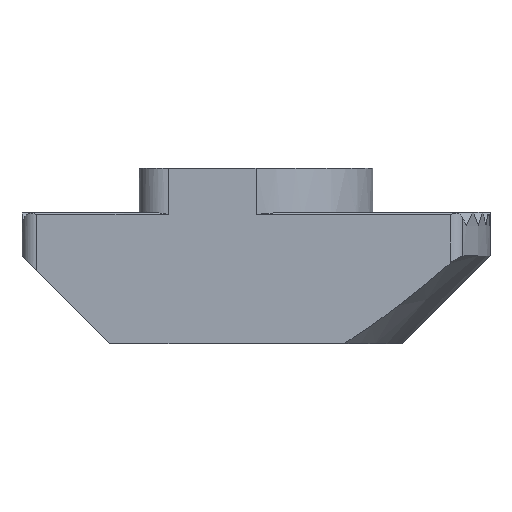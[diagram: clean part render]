
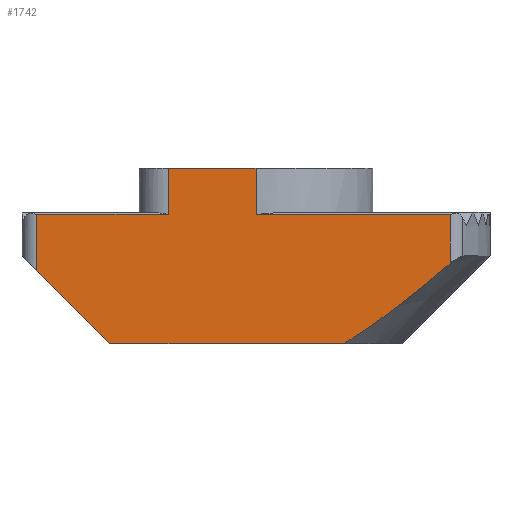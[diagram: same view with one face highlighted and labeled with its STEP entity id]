
A CAD part, front view. The second image highlights one B-rep face of the part: STEP entity #1742.
In plain terms, the highlighted planar face has unit normal (0, -1, 0).
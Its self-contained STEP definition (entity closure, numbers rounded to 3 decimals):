
#284 = LINE ( 'NONE', #2520, #293 ) ;
#288 = LINE ( 'NONE', #2511, #291 ) ;
#290 = LINE ( 'NONE', #2515, #295 ) ;
#291 = VECTOR ( 'NONE', #2509, 1000. ) ;
#292 = LINE ( 'NONE', #2495, #300 ) ;
#293 = VECTOR ( 'NONE', #2508, 1000. ) ;
#294 = LINE ( 'NONE', #2505, #297 ) ;
#295 = VECTOR ( 'NONE', #2506, 1000. ) ;
#296 = LINE ( 'NONE', #2503, #299 ) ;
#297 = VECTOR ( 'NONE', #2504, 1000. ) ;
#298 = LINE ( 'NONE', #2501, #301 ) ;
#299 = VECTOR ( 'NONE', #2502, 1000. ) ;
#300 = VECTOR ( 'NONE', #2494, 1000. ) ;
#301 = VECTOR ( 'NONE', #2500, 1000. ) ;
#303 = LINE ( 'NONE', #2493, #305 ) ;
#304 = LINE ( 'NONE', #2491, #307 ) ;
#305 = VECTOR ( 'NONE', #2492, 1000. ) ;
#307 = VECTOR ( 'NONE', #2489, 1000. ) ;
#418 = EDGE_CURVE ( 'NONE', #676, #1510, #288, .T. ) ;
#419 = EDGE_CURVE ( 'NONE', #676, #1512, #284, .T. ) ;
#420 = EDGE_CURVE ( 'NONE', #1512, #1513, #290, .T. ) ;
#421 = EDGE_CURVE ( 'NONE', #1513, #1514, #294, .T. ) ;
#422 = EDGE_CURVE ( 'NONE', #1514, #1515, #296, .T. ) ;
#423 = EDGE_CURVE ( 'NONE', #1515, #1516, #298, .T. ) ;
#424 = EDGE_CURVE ( 'NONE', #1516, #1517, #514, .T. ) ;
#425 = EDGE_CURVE ( 'NONE', #1517, #1518, #292, .T. ) ;
#426 = EDGE_CURVE ( 'NONE', #1518, #1519, #303, .T. ) ;
#427 = EDGE_CURVE ( 'NONE', #1510, #1519, #304, .T. ) ;
#514 = B_SPLINE_CURVE_WITH_KNOTS ( 'NONE', 3,
 ( #2499, #2507, #2510, #2498, #2497, #2496 ),
 .UNSPECIFIED., .F., .F.,
 ( 4, 2, 4 ),
 ( 0., 0.002, 0.005 ),
 .UNSPECIFIED. ) ;
#676 = VERTEX_POINT ( 'NONE', #2192 ) ;
#770 = FACE_OUTER_BOUND ( 'NONE', #2624, .T. ) ;
#979 = ORIENTED_EDGE ( 'NONE', *, *, #424, .T. ) ;
#987 = ORIENTED_EDGE ( 'NONE', *, *, #425, .T. ) ;
#995 = ORIENTED_EDGE ( 'NONE', *, *, #426, .T. ) ;
#1003 = ORIENTED_EDGE ( 'NONE', *, *, #427, .F. ) ;
#1067 = ORIENTED_EDGE ( 'NONE', *, *, #418, .F. ) ;
#1075 = ORIENTED_EDGE ( 'NONE', *, *, #419, .T. ) ;
#1083 = ORIENTED_EDGE ( 'NONE', *, *, #420, .T. ) ;
#1091 = ORIENTED_EDGE ( 'NONE', *, *, #421, .T. ) ;
#1099 = ORIENTED_EDGE ( 'NONE', *, *, #422, .T. ) ;
#1107 = ORIENTED_EDGE ( 'NONE', *, *, #423, .T. ) ;
#1298 = CARTESIAN_POINT ( 'NONE',  ( -8., -4., 4.5 ) ) ;
#1301 = PLANE ( 'NONE',  #1818 ) ;
#1303 = DIRECTION ( 'NONE',  ( 0., 1., 0. ) ) ;
#1304 = DIRECTION ( 'NONE',  ( 0., 0., 1. ) ) ;
#1510 = VERTEX_POINT ( 'NONE', #2209 ) ;
#1512 = VERTEX_POINT ( 'NONE', #2217 ) ;
#1513 = VERTEX_POINT ( 'NONE', #2218 ) ;
#1514 = VERTEX_POINT ( 'NONE', #2219 ) ;
#1515 = VERTEX_POINT ( 'NONE', #2207 ) ;
#1516 = VERTEX_POINT ( 'NONE', #2220 ) ;
#1517 = VERTEX_POINT ( 'NONE', #2221 ) ;
#1518 = VERTEX_POINT ( 'NONE', #2222 ) ;
#1519 = VERTEX_POINT ( 'NONE', #2223 ) ;
#1742 = ADVANCED_FACE ( 'NONE', ( #770 ), #1301, .F. ) ;
#1818 = AXIS2_PLACEMENT_3D ( 'NONE', #1298, #1303, #1304 ) ;
#2192 = CARTESIAN_POINT ( 'NONE',  ( -3., -4., 6. ) ) ;
#2207 = CARTESIAN_POINT ( 'NONE',  ( -5., -4., 0. ) ) ;
#2209 = CARTESIAN_POINT ( 'NONE',  ( 0., -4., 6. ) ) ;
#2217 = CARTESIAN_POINT ( 'NONE',  ( -3., -4., 4.421 ) ) ;
#2218 = CARTESIAN_POINT ( 'NONE',  ( -7.5, -4., 4.421 ) ) ;
#2219 = CARTESIAN_POINT ( 'NONE',  ( -7.5, -4., 2.5 ) ) ;
#2220 = CARTESIAN_POINT ( 'NONE',  ( 3., -4., 0. ) ) ;
#2221 = CARTESIAN_POINT ( 'NONE',  ( 6.633, -4., 2.746 ) ) ;
#2222 = CARTESIAN_POINT ( 'NONE',  ( 6.633, -4., 4.421 ) ) ;
#2223 = CARTESIAN_POINT ( 'NONE',  ( 0., -4., 4.421 ) ) ;
#2489 = DIRECTION ( 'NONE',  ( 0., 0., -1. ) ) ;
#2491 = CARTESIAN_POINT ( 'NONE',  ( 0., -4., 6. ) ) ;
#2492 = DIRECTION ( 'NONE',  ( -1., 0., 0. ) ) ;
#2493 = CARTESIAN_POINT ( 'NONE',  ( -8., -4., 4.421 ) ) ;
#2494 = DIRECTION ( 'NONE',  ( 0., 0., 1. ) ) ;
#2495 = CARTESIAN_POINT ( 'NONE',  ( 6.633, -4., 4.5 ) ) ;
#2496 = CARTESIAN_POINT ( 'NONE',  ( 6.633, -4., 2.746 ) ) ;
#2497 = CARTESIAN_POINT ( 'NONE',  ( 6.056, -4., 2.251 ) ) ;
#2498 = CARTESIAN_POINT ( 'NONE',  ( 5.471, -4., 1.767 ) ) ;
#2499 = CARTESIAN_POINT ( 'NONE',  ( 3., -4., 0. ) ) ;
#2500 = DIRECTION ( 'NONE',  ( 1., 0., 0. ) ) ;
#2501 = CARTESIAN_POINT ( 'NONE',  ( -8., -4., 0. ) ) ;
#2502 = DIRECTION ( 'NONE',  ( 0.707, 0., -0.707 ) ) ;
#2503 = CARTESIAN_POINT ( 'NONE',  ( -8., -4., 3. ) ) ;
#2504 = DIRECTION ( 'NONE',  ( 0., 0., -1. ) ) ;
#2505 = CARTESIAN_POINT ( 'NONE',  ( -7.5, -4., 4.5 ) ) ;
#2506 = DIRECTION ( 'NONE',  ( -1., 0., 0. ) ) ;
#2507 = CARTESIAN_POINT ( 'NONE',  ( 3.655, -4., 0.393 ) ) ;
#2508 = DIRECTION ( 'NONE',  ( 0., 0., -1. ) ) ;
#2509 = DIRECTION ( 'NONE',  ( 1., 0., 0. ) ) ;
#2510 = CARTESIAN_POINT ( 'NONE',  ( 4.27, -4., 0.838 ) ) ;
#2511 = CARTESIAN_POINT ( 'NONE',  ( -4., -4., 6. ) ) ;
#2515 = CARTESIAN_POINT ( 'NONE',  ( -8., -4., 4.421 ) ) ;
#2520 = CARTESIAN_POINT ( 'NONE',  ( -3., -4., 4.5 ) ) ;
#2624 = EDGE_LOOP ( 'NONE', ( #1067, #1075, #1083, #1091, #1099, #1107, #979, #987, #995, #1003 ) ) ;
